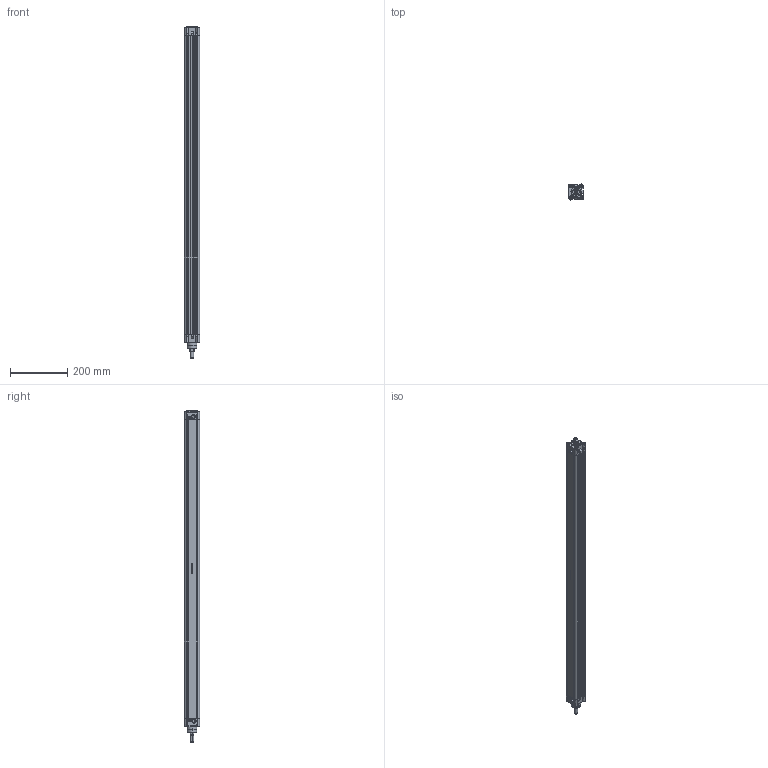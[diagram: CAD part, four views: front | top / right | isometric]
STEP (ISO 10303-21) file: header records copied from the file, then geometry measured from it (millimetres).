
FILE_DESCRIPTION (( 'STEP AP214' ), '1' );
FILE_NAME ('RIC_40_1000_WEB.STEP', '2021-01-10T10:55:25', ( '' ), ( '' ), 'SwSTEP 2.0', 'SolidWorks 2021', '' );
FILE_SCHEMA (( 'AUTOMOTIVE_DESIGN' ));
Length unit declared in the file: millimetre
Products named in the file (8): ric40onkapak; 16_K_MIL_WEB; m6kapakcivatasi; yastýklama civatasý; ric40arkakapak; ric40bogazkecesi; RIC_40_1000_WEB; RIC_40_BORU_WEB_RIC 40-250
Assembly tree (15 placements, depth 2):
  RIC_40_1000_WEB
    ric40arkakapak
    ric40onkapak
    RIC_40_BORU_WEB_RIC 40-250
    ric40bogazkecesi
    yastýklama civatasý  x2
    m6kapakcivatasi  x8
    16_K_MIL_WEB
Bounding box: 54.22 x 54.22 x 1159.5 mm (x, y, z)
Volume: 1184748.1 mm3; surface area: 565557.3 mm2
Topology: 22 solids, 22 shells, 1035 faces, 2485 edges, 1585 vertices
Faces by surface type: plane 553, cylinder 227, cone 131, bspline 98, torus 26
Entity records: 31879 total; most frequent: CARTESIAN_POINT 10352, ORIENTED_EDGE 3982, DIRECTION 3656, EDGE_CURVE 1991, VERTEX_POINT 1289, VECTOR 1264, LINE 1264, AXIS2_PLACEMENT_3D 1196
